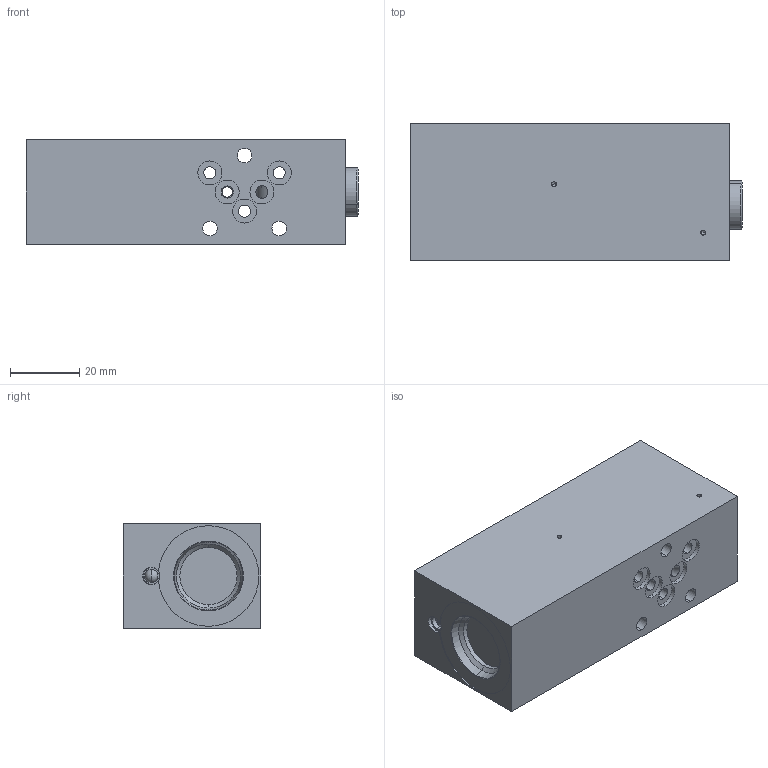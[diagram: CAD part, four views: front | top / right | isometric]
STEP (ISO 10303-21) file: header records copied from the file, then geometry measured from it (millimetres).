
FILE_DESCRIPTION (( 'STEP AP214' ), '1' );
FILE_NAME ('MVPSA03-A.STEP', '2017-04-13T12:34:33', ( '' ), ( '' ), 'SwSTEP 2.0', 'SolidWorks 2016', '' );
FILE_SCHEMA (( 'AUTOMOTIVE_DESIGN' ));
Length unit declared in the file: millimetre
Products named in the file (1): MVPSA03-A
Bounding box: 95.7 x 39.5 x 30 mm (x, y, z)
Volume: 104197.8 mm3; surface area: 21669.3 mm2
Topology: 7 solids, 12 shells, 224 faces, 490 edges, 289 vertices
Faces by surface type: cylinder 103, cone 61, plane 38, sphere 16, torus 6
Entity records: 8593 total; most frequent: DIRECTION 1160, CARTESIAN_POINT 1056, ORIENTED_EDGE 932, AXIS2_PLACEMENT_3D 485, EDGE_CURVE 466, VERTEX_POINT 289, EDGE_LOOP 267, CIRCLE 260
